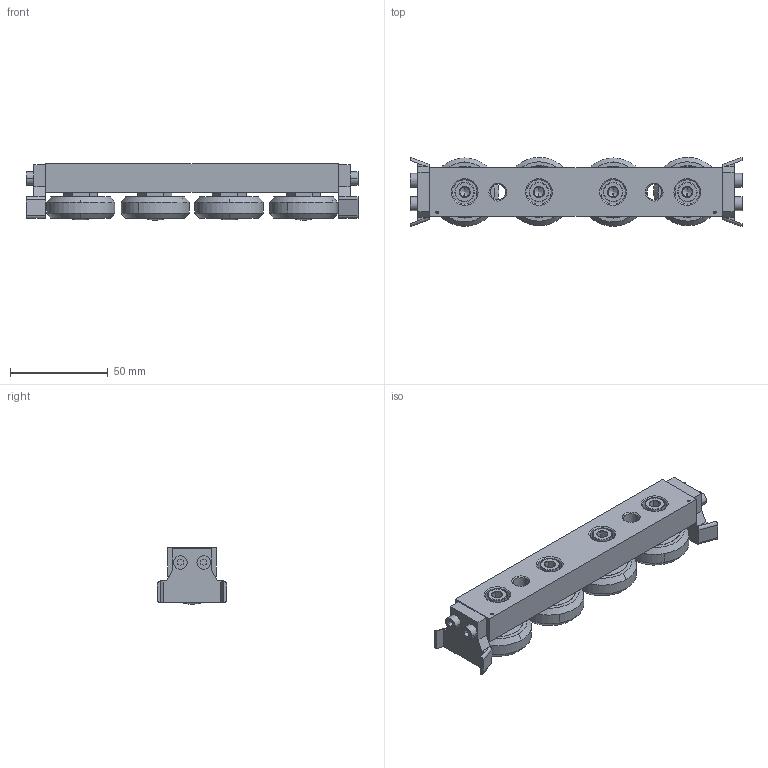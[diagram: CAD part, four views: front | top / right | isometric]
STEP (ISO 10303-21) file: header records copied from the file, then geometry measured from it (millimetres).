
FILE_DESCRIPTION (( 'STEP AP203' ), '1' );
FILE_NAME ('L1943.CSW43-150-2ZUB.step', '2019-03-13T08:16:40', ( '' ), ( '' ), 'SwSTEP 2.0', 'SolidWorks 2017', '' );
FILE_SCHEMA (( 'CONFIG_CONTROL_DESIGN' ));
Length unit declared in the file: millimetre
Products named in the file (6): L1943.CSW43-150-2ZUB; Part1_L1943.CSW43-150-2ZUB; Part3; Part7; Part8; Part2
Assembly tree (11 placements, depth 2):
  L1943.CSW43-150-2ZUB
    Part1_L1943.CSW43-150-2ZUB
    Part8  x4
    Part2  x2
    Part3  x2
    Part7  x2
Bounding box: 170 x 35.47 x 28.88 mm (x, y, z)
Volume: 98741.3 mm3; surface area: 34719.5 mm2
Topology: 11 solids, 11 shells, 408 faces, 908 edges, 554 vertices
Faces by surface type: plane 190, cone 128, cylinder 76, torus 8, bspline 6
Entity records: 6892 total; most frequent: CARTESIAN_POINT 1284, DIRECTION 1075, ORIENTED_EDGE 934, EDGE_CURVE 467, AXIS2_PLACEMENT_3D 410, VERTEX_POINT 295, VECTOR 255, LINE 255
